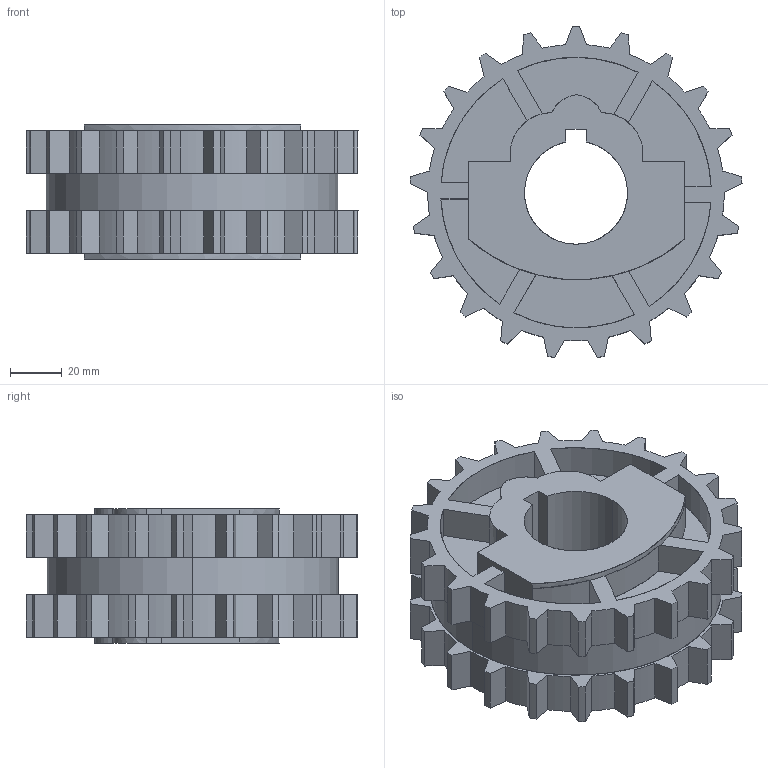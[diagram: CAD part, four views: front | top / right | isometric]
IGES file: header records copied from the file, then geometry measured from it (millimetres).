
Start section: SolidWorks IGES file using analytic representation for surfaces
Global section: file name: C:\Documents and Settings\URETIM3\Desktop\yeni katalog tolgay\326 KI2 421.IGS; native system: SolidWorks 2006 by SolidWorks Corporation; preprocessor: SolidWorks 2006 by SolidWorks Corporation; author: URETIM3; date: 061108.125541; units: millimetre
Bounding box: 128.82 x 128.47 x 52 mm (x, y, z)
Surface area: 72001.8 mm2 (no closed solid volume)
Topology: 0 solids, 0 shells, 267 faces, 2113 edges, 2113 vertices
Faces by surface type: bspline 148, revolution 119
